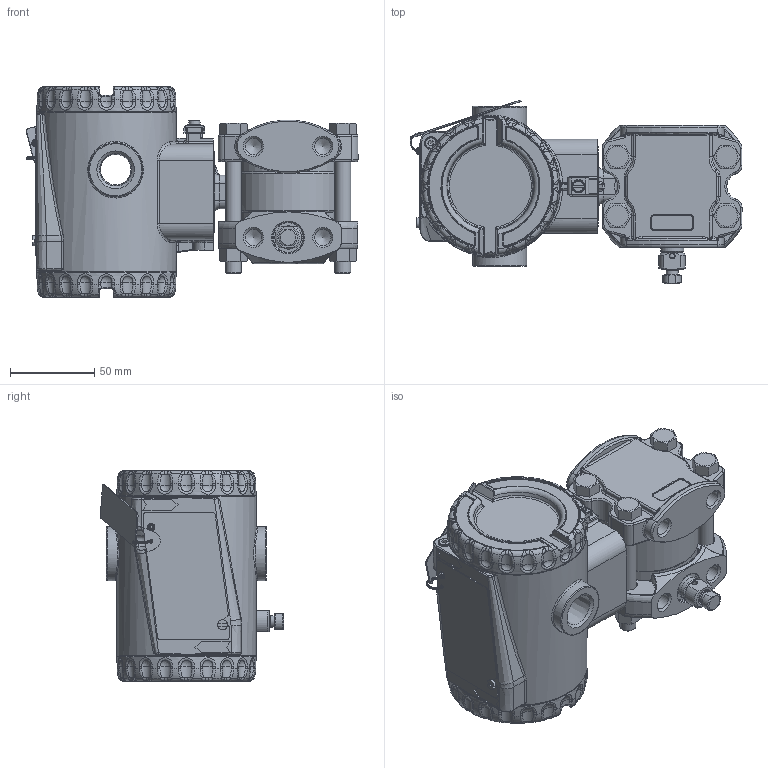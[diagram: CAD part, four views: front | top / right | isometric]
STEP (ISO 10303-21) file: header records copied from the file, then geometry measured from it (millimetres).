
FILE_DESCRIPTION(/* description */ (''),/* implementation_level */ '2;1');
FILE_NAME(/* name */ 'F:\Area\Desenvolvimento_2\Projects\Sensor\projetos\LD400-3d\dimensionais 3D clientes\LD400M0-3 1-4NPT Monel purga oposta.stp',/* time_stamp */ '2023-02-02T13:28:53-03:00',/* author */ ('inventor02'),/* organization */ (''),/* preprocessor_version */ 'ST-DEVELOPER v17',/* originating_system */ 'Autodesk Inventor 2019',/* authorisation */ '');
FILE_SCHEMA (('CONFIG_CONTROL_DESIGN'));
Products named in the file (30): LD400M0-3 1-4NPT Monel purga oposta; Carcaça 400 com tampas e plaqueta sem letras; 101-D-0845-05 carcaça LD400 sem letras; 101-B-3614-03-tampa 400 sem letras; Tampa visor 400 montada sem letras; 101-B-3612-05 tampa visor 400 sem letras; 101-A-6107; oring 2034; 00034775-0; WHW_250; DIN 915 - M6 x 10; Chapa aterramento externo; 201-A-1771-02 inserto terra recartilhado; AS 1969 - ST4,2; ISO 1207 - M4 x 8; ANSI B18.3.1M - M4x0,7 x 8; Subconjunto plaqueta 400; plaqueta 400 em branco; Parafuso da Plaqueta; Rebite da Plaqueta; 096-A-0169-03; 101-A-0502-01; manometrico FX0-3 monel purga oposta; involucro fx0-3 apos a usinagem final; 101-C-0040-05 monel barra 7-16; 096-C-0014-13 manom reforçado; Paraf. 3-8 x 16 UNC; Porca 3-8 x 16 UNC; 075-B-0046-purgador; Sangria
Assembly tree (36 placements, depth 4):
  LD400M0-3 1-4NPT Monel purga oposta
    Carcaça 400 com tampas e plaqueta sem letras
      101-D-0845-05 carcaça LD400 sem letras
      101-B-3614-03-tampa 400 sem letras
      Tampa visor 400 montada sem letras
        101-B-3612-05 tampa visor 400 sem letras
        101-A-6107
        oring 2034
        00034775-0
        WHW_250
      DIN 915 - M6 x 10
      Chapa aterramento externo
      201-A-1771-02 inserto terra recartilhado
      AS 1969 - ST4,2
      ISO 1207 - M4 x 8
      ANSI B18.3.1M - M4x0,7 x 8  x2
      Subconjunto plaqueta 400
        plaqueta 400 em branco
        Parafuso da Plaqueta
        Rebite da Plaqueta
        096-A-0169-03
        101-A-0502-01
    manometrico FX0-3 monel purga oposta
      involucro fx0-3 apos a usinagem final
      101-C-0040-05 monel barra 7-16
      096-C-0014-13 manom reforçado
      Paraf. 3-8 x 16 UNC  x4
      Porca 3-8 x 16 UNC  x4
      075-B-0046-purgador
      Sangria
Bounding box: 197.27 x 108.89 x 125 mm (x, y, z)
Volume: 637971.9 mm3; surface area: 235073.3 mm2
Topology: 32 solids, 32 shells, 2355 faces, 5790 edges, 3491 vertices
Faces by surface type: plane 617, cylinder 555, bspline 525, torus 397, cone 204, sphere 57
Full cylindrical faces by diameter (mm): 2 x2, 2.1 x1, 2.2 x1, 2.459 x3, 2.7 x1, 3 x3, 3.242 x3, 3.571 x1, 4 x4, 4.3 x2, 4.4 x1, 4.917 x1, 5 x2, 5.5 x1, 6 x2, 6.1 x2, 6.2 x1, 6.8 x1, 7 x3, 7.6 x2, 7.798 x4, 8 x1, 9.525 x4, 9.728 x8, 10.5 x8, 10.719 x2, 12 x1, 13.8 x1, 14 x1, 18.3 x2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
Entity records: 87188 total; most frequent: CARTESIAN_POINT 34578, ORIENTED_EDGE 11050, DIRECTION 10599, EDGE_CURVE 5525, AXIS2_PLACEMENT_3D 4489, VERTEX_POINT 3357, CIRCLE 2601, EDGE_LOOP 2368
